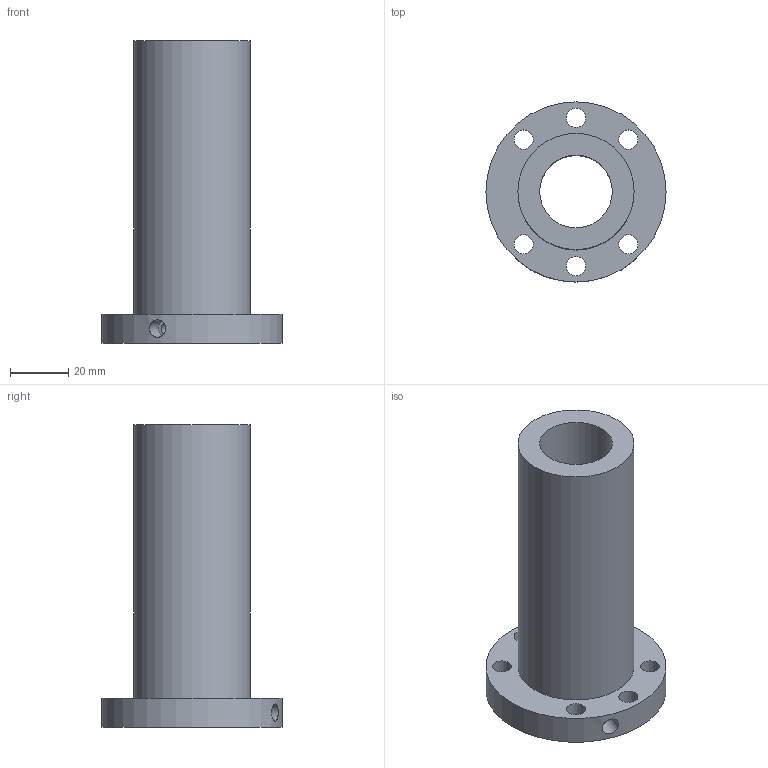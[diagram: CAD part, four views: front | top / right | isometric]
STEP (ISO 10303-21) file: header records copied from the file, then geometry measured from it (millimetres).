
FILE_DESCRIPTION(/* description */ (''),/* implementation_level */ '2;1');
FILE_NAME(/* name */ '25-10K3_3175',/* time_stamp */ '2007-10-15T12:54:02+08:00',/* author */ (''),/* organization */ (''),/* preprocessor_version */ 'ST-DEVELOPER v11',/* originating_system */ 'UGS - NX 5.0',/* authorisation */ '');
FILE_SCHEMA (('CONFIG_CONTROL_DESIGN'));
Length unit declared in the file: millimetre
Products named in the file (1): 25-10K3_3175
Bounding box: 62 x 62 x 104 mm (x, y, z)
Volume: 94853.5 mm3; surface area: 28075.4 mm2
Topology: 1 solids, 1 shells, 15 faces, 34 edges, 23 vertices
Faces by surface type: cylinder 11, plane 4
Full cylindrical faces by diameter (mm): 4 x1, 6 x1, 6.6 x6, 25 x1, 40 x1, 62 x1
Entity records: 600 total; most frequent: CARTESIAN_POINT 174, DIRECTION 72, FACE_BOUND 44, EDGE_LOOP 44, ORIENTED_EDGE 44, AXIS2_PLACEMENT_3D 36, VERTEX_POINT 22, EDGE_CURVE 22
